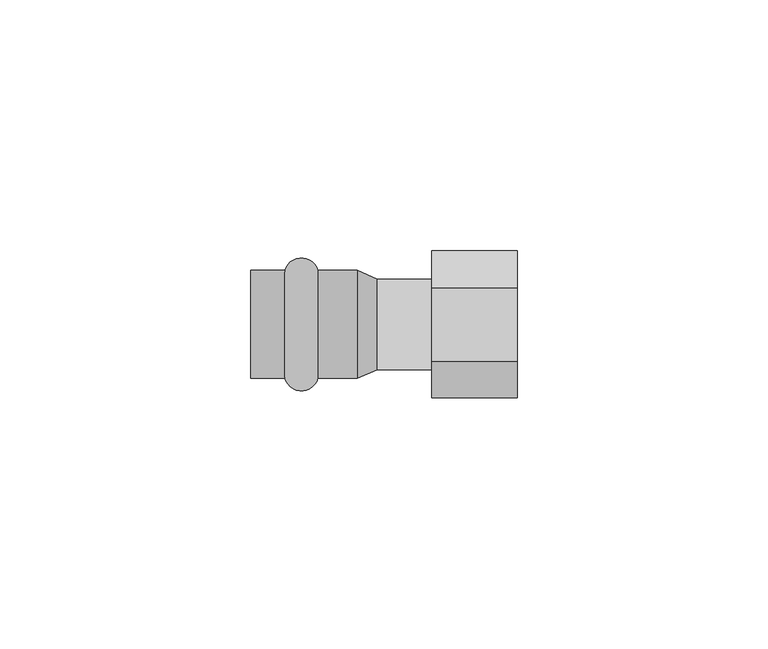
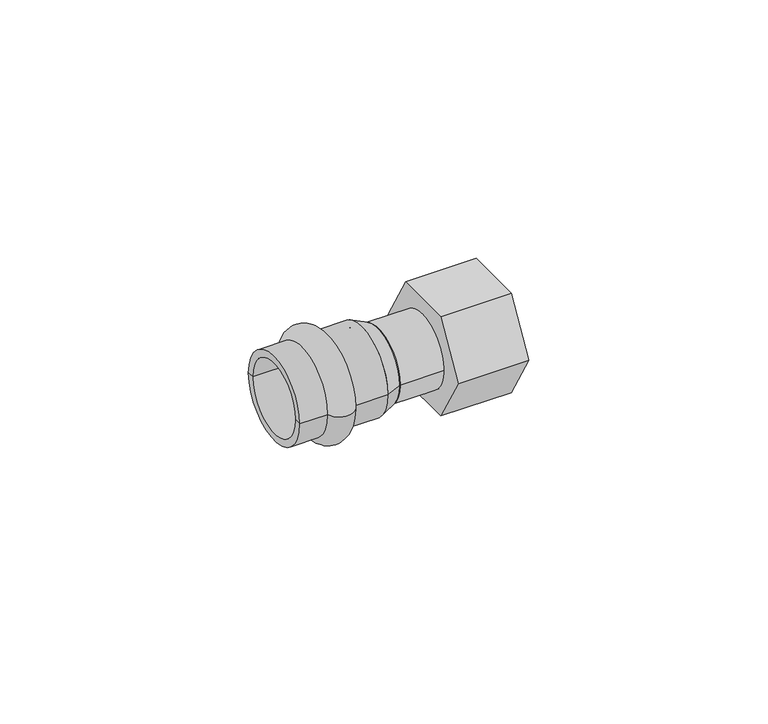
"""IFC4 building model written with IfcOpenShell, lengths in millimetres: pipe fitting geometry, VALTEC_VTi.908.I_Соединитель с накидной гайкой_Нержавеющая сталь : VTi.908.I."""

from ifc_helpers import new_model, si_unit, point, frame, origin, origin_2d, place, context, project, spatial, polyline, circle_curve, ellipse_curve, trimmed, segment, composite_curve, outline, extrude, source, transform, mapped, element, save
from ifc_brep_helpers import plane_surface, cylinder_surface, revolved_surface, advanced_brep


def pipe_fitting_bdfb302d(model_context):
    return source(origin(), model_context, "Body", "SolidModel", [
        advanced_brep(
        [(-37.7287193, -10.75, 0.0), (-37.7287193, 10.75, 0.0), (-31.1712807, 10.75, 0.0), (-31.1712807, -10.75, 0.0), (-44.5, -10.75, 0.0), (-44.5, 10.75, 0.0), (-44.5, -9.0, 0.0), (-44.5, 9.0, 0.0), (-23.3, -9.0, 0.0), (-23.3, 9.0, 0.0), (-23.3, -10.75, 0.0), (-23.3, 10.75, 0.0)],
        [
            (0, 1, circle_curve(frame((-37.7287193, 0.0, 0.0), z_axis=(1.0, 0.0, 0.0), x_axis=(0.0, 1.0, 0.0)), 10.75)),
            (1, 2, circle_curve(frame((-34.45, 9.85, 0.0), z_axis=(0.0, 0.0, -1.0), x_axis=(1.0, 0.0, 0.0)), 3.4)),
            (2, 3, circle_curve(frame((-31.1712807, 0.0, 0.0), z_axis=(-1.0, 0.0, 0.0), x_axis=(0.0, 1.0, 0.0)), 10.75)),
            (3, 0, circle_curve(frame((-34.45, -9.85, 0.0), z_axis=(0.0, 0.0, -1.0), x_axis=(1.0, 0.0, 0.0)), 3.4)),
            (1, 0, circle_curve(frame((-37.7287193, 0.0, 0.0), z_axis=(1.0, 0.0, 0.0), x_axis=(0.0, 1.0, 0.0)), 10.75)),
            (3, 2, circle_curve(frame((-31.1712807, 0.0, 0.0), z_axis=(-1.0, 0.0, 0.0), x_axis=(0.0, 1.0, 0.0)), 10.75)),
            (4, 5, circle_curve(frame((-44.5, 0.0, 0.0), z_axis=(1.0, 0.0, 0.0), x_axis=(0.0, 1.0, 0.0)), 10.75)),
            (5, 1),
            (0, 4),
            (5, 4, circle_curve(frame((-44.5, 0.0, 0.0), z_axis=(1.0, 0.0, 0.0), x_axis=(0.0, 1.0, 0.0)), 10.75)),
            (6, 7, circle_curve(frame((-44.5, 0.0, 0.0), z_axis=(1.0, 0.0, 0.0), x_axis=(0.0, 1.0, 0.0)), 9.0)),
            (7, 5),
            (4, 6),
            (7, 6, circle_curve(frame((-44.5, 0.0, 0.0), z_axis=(1.0, 0.0, 0.0), x_axis=(0.0, 1.0, 0.0)), 9.0)),
            (8, 9, circle_curve(frame((-23.3, 0.0, 0.0), z_axis=(1.0, 0.0, 0.0), x_axis=(0.0, 1.0, 0.0)), 9.0)),
            (9, 7),
            (6, 8),
            (9, 8, circle_curve(frame((-23.3, 0.0, 0.0), z_axis=(1.0, 0.0, 0.0), x_axis=(0.0, 1.0, 0.0)), 9.0)),
            (10, 11, circle_curve(frame((-23.3, 0.0, 0.0), z_axis=(1.0, 0.0, 0.0), x_axis=(0.0, 1.0, 0.0)), 10.75)),
            (11, 9),
            (8, 10),
            (11, 10, circle_curve(frame((-23.3, 0.0, 0.0), z_axis=(1.0, 0.0, 0.0), x_axis=(0.0, 1.0, 0.0)), 10.75)),
            (2, 11),
            (10, 3),
        ],
        [
            revolved_surface(trimmed(ellipse_curve(frame((-34.45, 9.85, 0.0), z_axis=(0.0, 0.0, 1.0), x_axis=(1.0, 0.0, 0.0)), 3.4, 3.4), [point((-31.1712807, 10.75, 0.0))], [point((-37.7287193, 10.75, 0.0))], True, "CARTESIAN"), (-48.0364426, 0.0, 0.0), (-1.0, 0.0, 0.0)),
            cylinder_surface(frame((-48.0364426, 0.0, 0.0), z_axis=(-1.0, 0.0, 0.0), x_axis=(0.0, 1.0, 0.0)), 10.75),
            plane_surface(frame((-44.5, 0.0, 0.0), z_axis=(-1.0, 0.0, 0.0), x_axis=(0.0, 1.0, 0.0))),
            revolved_surface(polyline([(-44.5, 9.0, 0.0), (-23.3, 9.0, 0.0)]), (-48.0364426, 0.0, 0.0), (-1.0, 0.0, 0.0)),
            plane_surface(frame((-23.3, 0.0, 0.0), z_axis=(1.0, 0.0, 0.0), x_axis=(0.0, 1.0, 0.0))),
        ],
        [
            (0, [[1, 2, 3, 4]]),
            (0, [[5, -4, 6, -2]]),
            (1, [[7, 8, -1, 9]]),
            (1, [[10, -9, -5, -8]]),
            (2, [[11, 12, -7, 13]]),
            (2, [[14, -13, -10, -12]]),
            (3, [[15, 16, -11, 17]]),
            (3, [[18, -17, -14, -16]]),
            (4, [[19, 20, -15, 21]]),
            (4, [[22, -21, -18, -20]]),
            (1, [[-3, 23, -19, 24]]),
            (1, [[-6, -24, -22, -23]]),
        ],
    ),
        extrude(outline(polyline([(-14.6358293, 0.0), (-7.3179147, 12.675), (7.3179147, 12.675), (14.6358293, 0.0), (7.3179147, -12.675), (-7.3179147, -12.675), (-14.6358293, 0.0)])), frame((-8.5, 0.0, 0.0), z_axis=(1.0, 0.0, 0.0), x_axis=(0.0, 1.0, 0.0)), (0.0, 0.0, 1.0), 17.0),
        extrude(outline(composite_curve([segment(trimmed(circle_curve(origin_2d(), 9.0), [point((-9.0, 0.0))], [point((9.0, 0.0))], False, "CARTESIAN"), True, "CONTINUOUS"), segment(trimmed(circle_curve(origin_2d(), 9.0), [point((9.0, 0.0))], [point((-9.0, 0.0))], False, "CARTESIAN"), True, "CONTINUOUS")], self_intersect=False)), frame((-19.3, 0.0, 0.0), z_axis=(1.0, 0.0, 0.0), x_axis=(0.0, 1.0, 0.0)), (0.0, 0.0, 1.0), 10.8),
        advanced_brep(
        [(-19.3, -9.0, 0.0), (-19.3, 9.0, 0.0), (-23.3, -10.75, 0.0), (-23.3, 10.75, 0.0)],
        [
            (0, 1, circle_curve(frame((-19.3, 0.0, 0.0), z_axis=(1.0, 0.0, 0.0), x_axis=(0.0, -1.0, 0.0)), 9.0)),
            (1, 0, circle_curve(frame((-19.3, 0.0, 0.0), z_axis=(1.0, 0.0, 0.0), x_axis=(0.0, 1.0, 0.0)), 9.0)),
            (2, 3, circle_curve(frame((-23.3, 0.0, 0.0), z_axis=(-1.0, 0.0, 0.0), x_axis=(0.0, 1.0, 0.0)), 10.75)),
            (3, 2, circle_curve(frame((-23.3, 0.0, 0.0), z_axis=(-1.0, 0.0, 0.0), x_axis=(0.0, -1.0, 0.0)), 10.75)),
            (3, 1),
            (0, 2),
        ],
        [
            plane_surface(frame((-19.3, 0.0, 0.0), z_axis=(1.0, 0.0, 0.0), x_axis=(0.0, 0.0, -1.0))),
            plane_surface(frame((-23.3, 0.0, 0.0), z_axis=(-1.0, 0.0, 0.0), x_axis=(0.0, 0.0, -1.0))),
            revolved_surface(polyline([(-19.3, -9.000000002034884, 0.0), (-23.3, -10.75, 0.0)]), (1.2714286, 0.0, 0.0), (-1.0, 0.0, 0.0)),
            revolved_surface(polyline([(-19.3, 9.000000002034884, 0.0), (-23.3, 10.75, 0.0)]), (1.2714286, 0.0, 0.0), (-1.0, 0.0, 0.0)),
        ],
        [
            (0, [[1, 2]]),
            (1, [[3, 4]]),
            (2, [[-4, 5, -1, 6]]),
            (3, [[-3, -6, -2, -5]]),
        ],
    ),
    ])


if __name__ == "__main__":
    model = new_model("IFC4")
    model_context = context("Model", 3, world=origin())
    ifc_project = project(units=[si_unit("LENGTHUNIT", "METRE", prefix="MILLI")], contexts=[model_context])
    site = spatial("IfcSite", under=ifc_project)
    building = spatial("IfcBuilding", under=site)
    placement = place(None, origin())
    pipe_fitting_shape = pipe_fitting_bdfb302d(model_context)
    element("IfcPipeFitting", 1, ObjectType="VALTEC_VTi.908.I_Соединитель с накидной гайкой_Нержавеющая сталь : VTi.908.I", at=placement, inside=building, context=model_context, shape_type="MappedRepresentation", body=[
        mapped(pipe_fitting_shape, transform((0.0, 0.0, 0.0), x_axis=(1.0, 0.0, 0.0), y_axis=(0.0, 1.0, 0.0), z_axis=(0.0, 0.0, 1.0))),
    ])
    save(model, "model.ifc")
